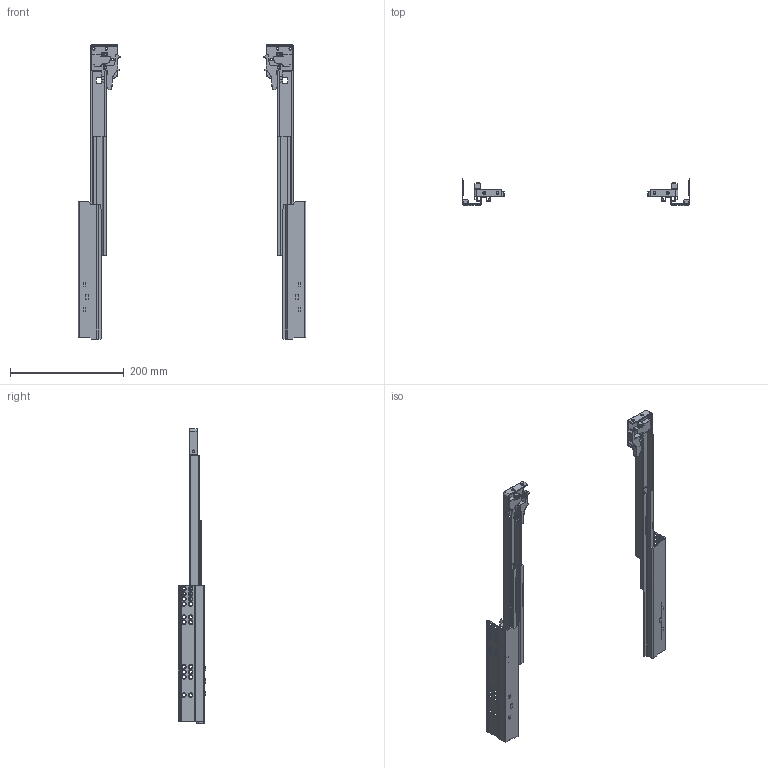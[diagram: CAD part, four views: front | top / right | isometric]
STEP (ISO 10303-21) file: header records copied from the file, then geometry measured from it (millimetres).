
FILE_DESCRIPTION(/* description */ (''),/* implementation_level */ '2;1');
FILE_NAME(/* name */ 'D:\$Workingspace\Designs\Katalog\Cadsoft\GTV Prowadnice\Prowadnice GTV_bryły 3D\PB-0SHX-300-A_wysuw.stp',/* time_stamp */ '2016-11-21T12:43:43+01:00',/* author */ ('tomaszw'),/* organization */ (''),/* preprocessor_version */ 'ST-DEVELOPER v16.1',/* originating_system */ 'Autodesk Inventor 2016',/* authorisation */ '');
FILE_SCHEMA (('AUTOMOTIVE_DESIGN { 1 0 10303 214 3 1 1 }'));
Products named in the file (9): PB-0SHX-CL-300; PB-0SHX-CR-300; PB-0SHX-DL-300; PB-0SHX-DR-300; PB-0SHX-DWL-300; PB-0SHX-DWR-300; PB-0SHX-SL; PB-0SHX-SR; PB-0SHX
Assembly tree (8 placements, depth 2):
  PB-0SHX
    PB-0SHX-CL-300
    PB-0SHX-CR-300
    PB-0SHX-DL-300
    PB-0SHX-DR-300
    PB-0SHX-DWL-300
    PB-0SHX-DWR-300
    PB-0SHX-SL
    PB-0SHX-SR
Bounding box: 400 x 48.8 x 516.5 mm (x, y, z)
Volume: 209018.1 mm3; surface area: 250574.2 mm2
Topology: 14 solids, 14 shells, 3442 faces, 8144 edges, 4734 vertices
Faces by surface type: bspline 1080, cylinder 914, torus 550, plane 466, sphere 332, cone 100
Full cylindrical faces by diameter (mm): 3.64 x2, 4 x6, 4.5 x6, 5.64 x2, 6 x40
Entity records: 142963 total; most frequent: CARTESIAN_POINT 65963, ORIENTED_EDGE 15940, DIRECTION 14326, EDGE_CURVE 7970, AXIS2_PLACEMENT_3D 6153, VERTEX_POINT 4686, CIRCLE 3728, EDGE_LOOP 3688
